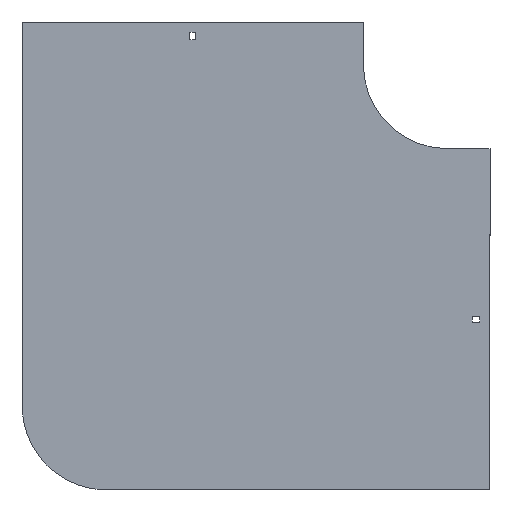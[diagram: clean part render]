
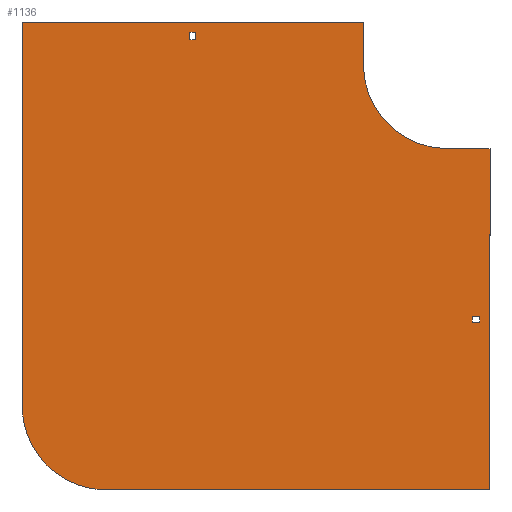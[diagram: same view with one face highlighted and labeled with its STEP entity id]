
A CAD part, front view. The second image highlights one B-rep face of the part: STEP entity #1136.
In plain terms, the highlighted planar face has unit normal (0, -1, 0).
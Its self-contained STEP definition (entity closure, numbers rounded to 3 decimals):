
#1 = DIRECTION ( 'NONE',  ( -1., 0., 0. ) ) ;
#22 = LINE ( 'NONE', #574, #1624 ) ;
#30 = ORIENTED_EDGE ( 'NONE', *, *, #1088, .T. ) ;
#36 = VECTOR ( 'NONE', #155, 1000. ) ;
#81 = VERTEX_POINT ( 'NONE', #191 ) ;
#86 = CARTESIAN_POINT ( 'NONE',  ( -305.25, 0., 29. ) ) ;
#100 = DIRECTION ( 'NONE',  ( 0., 0., 1. ) ) ;
#106 = CARTESIAN_POINT ( 'NONE',  ( -504., 0., 50. ) ) ;
#111 = CARTESIAN_POINT ( 'NONE',  ( 29., 0., -298.75 ) ) ;
#116 = LINE ( 'NONE', #710, #690 ) ;
#141 = LINE ( 'NONE', #1508, #1725 ) ;
#155 = DIRECTION ( 'NONE',  ( 1., 0., 0. ) ) ;
#177 = ORIENTED_EDGE ( 'NONE', *, *, #1758, .F. ) ;
#191 = CARTESIAN_POINT ( 'NONE',  ( -305.25, 0., 38. ) ) ;
#195 = EDGE_CURVE ( 'NONE', #1787, #1843, #1655, .T. ) ;
#201 = CARTESIAN_POINT ( 'NONE',  ( -404., 0., -504. ) ) ;
#203 = PLANE ( 'NONE',  #1205 ) ;
#204 = VERTEX_POINT ( 'NONE', #311 ) ;
#217 = VERTEX_POINT ( 'NONE', #1460 ) ;
#219 = VECTOR ( 'NONE', #843, 1000. ) ;
#236 = EDGE_CURVE ( 'NONE', #1873, #264, #984, .T. ) ;
#264 = VERTEX_POINT ( 'NONE', #201 ) ;
#275 = EDGE_CURVE ( 'NONE', #264, #1896, #1300, .T. ) ;
#311 = CARTESIAN_POINT ( 'NONE',  ( -100., 0., 50. ) ) ;
#317 = CARTESIAN_POINT ( 'NONE',  ( -298.75, 0., 38. ) ) ;
#327 = CARTESIAN_POINT ( 'NONE',  ( -504., 0., 50. ) ) ;
#337 = ORIENTED_EDGE ( 'NONE', *, *, #993, .F. ) ;
#346 = DIRECTION ( 'NONE',  ( -1., 0., 0. ) ) ;
#397 = VERTEX_POINT ( 'NONE', #327 ) ;
#401 = LINE ( 'NONE', #697, #515 ) ;
#409 = EDGE_LOOP ( 'NONE', ( #1859, #621, #337, #1186 ) ) ;
#430 = CARTESIAN_POINT ( 'NONE',  ( 0., 0., -100. ) ) ;
#433 = CARTESIAN_POINT ( 'NONE',  ( 50., 0., -504. ) ) ;
#442 = CARTESIAN_POINT ( 'NONE',  ( -504., 0., -404. ) ) ;
#445 = VERTEX_POINT ( 'NONE', #1568 ) ;
#456 = DIRECTION ( 'NONE',  ( 0., 0., -1. ) ) ;
#464 = VECTOR ( 'NONE', #1504, 1000. ) ;
#484 = VERTEX_POINT ( 'NONE', #637 ) ;
#491 = FACE_BOUND ( 'NONE', #409, .T. ) ;
#515 = VECTOR ( 'NONE', #1445, 1000. ) ;
#548 = CARTESIAN_POINT ( 'NONE',  ( 38., 0., -305.25 ) ) ;
#549 = AXIS2_PLACEMENT_3D ( 'NONE', #965, #1411, #977 ) ;
#574 = CARTESIAN_POINT ( 'NONE',  ( 29., 0., -305.25 ) ) ;
#582 = DIRECTION ( 'NONE',  ( 0., -1., 0. ) ) ;
#583 = VECTOR ( 'NONE', #1660, 1000. ) ;
#584 = CARTESIAN_POINT ( 'NONE',  ( 38., 0., -298.75 ) ) ;
#610 = EDGE_CURVE ( 'NONE', #217, #1286, #1490, .T. ) ;
#620 = ORIENTED_EDGE ( 'NONE', *, *, #821, .F. ) ;
#621 = ORIENTED_EDGE ( 'NONE', *, *, #677, .F. ) ;
#625 = ORIENTED_EDGE ( 'NONE', *, *, #1005, .F. ) ;
#637 = CARTESIAN_POINT ( 'NONE',  ( 29., 0., -298.75 ) ) ;
#643 = DIRECTION ( 'NONE',  ( 0., 0., 1. ) ) ;
#670 = ORIENTED_EDGE ( 'NONE', *, *, #1332, .T. ) ;
#677 = EDGE_CURVE ( 'NONE', #445, #1787, #401, .T. ) ;
#690 = VECTOR ( 'NONE', #1287, 1000. ) ;
#695 = DIRECTION ( 'NONE',  ( -1., 0., 0. ) ) ;
#697 = CARTESIAN_POINT ( 'NONE',  ( 29., 0., -305.25 ) ) ;
#710 = CARTESIAN_POINT ( 'NONE',  ( 50., 0., -100. ) ) ;
#742 = LINE ( 'NONE', #1337, #464 ) ;
#752 = CARTESIAN_POINT ( 'NONE',  ( 38., 0., -305.25 ) ) ;
#809 = ORIENTED_EDGE ( 'NONE', *, *, #1085, .T. ) ;
#821 = EDGE_CURVE ( 'NONE', #1704, #1873, #116, .T. ) ;
#843 = DIRECTION ( 'NONE',  ( 1., 0., 0. ) ) ;
#872 = LINE ( 'NONE', #1471, #36 ) ;
#876 = DIRECTION ( 'NONE',  ( 0., 0., 1. ) ) ;
#879 = ORIENTED_EDGE ( 'NONE', *, *, #236, .F. ) ;
#908 = CARTESIAN_POINT ( 'NONE',  ( -100., 0., 50. ) ) ;
#931 = EDGE_LOOP ( 'NONE', ( #177, #1637, #1227, #879, #620, #1104, #625, #1201 ) ) ;
#956 = FACE_OUTER_BOUND ( 'NONE', #931, .T. ) ;
#965 = CARTESIAN_POINT ( 'NONE',  ( -404., 0., -404. ) ) ;
#977 = DIRECTION ( 'NONE',  ( 0., 0., 1. ) ) ;
#984 = LINE ( 'NONE', #1578, #1143 ) ;
#993 = EDGE_CURVE ( 'NONE', #484, #445, #22, .T. ) ;
#998 = AXIS2_PLACEMENT_3D ( 'NONE', #1493, #582, #456 ) ;
#1005 = EDGE_CURVE ( 'NONE', #1446, #1368, #1534, .T. ) ;
#1008 = EDGE_CURVE ( 'NONE', #1368, #1704, #1932, .T. ) ;
#1027 = EDGE_CURVE ( 'NONE', #204, #1446, #1195, .T. ) ;
#1037 = DIRECTION ( 'NONE',  ( 0., 0., -1. ) ) ;
#1057 = VERTEX_POINT ( 'NONE', #317 ) ;
#1085 = EDGE_CURVE ( 'NONE', #81, #1057, #872, .T. ) ;
#1088 = EDGE_CURVE ( 'NONE', #1057, #217, #742, .T. ) ;
#1095 = DIRECTION ( 'NONE',  ( 0., -1., 0. ) ) ;
#1101 = FACE_BOUND ( 'NONE', #1188, .T. ) ;
#1104 = ORIENTED_EDGE ( 'NONE', *, *, #1008, .F. ) ;
#1116 = CARTESIAN_POINT ( 'NONE',  ( 50., 0., -100. ) ) ;
#1136 = ADVANCED_FACE ( 'NONE', ( #1101, #956, #491 ), #203, .T. ) ;
#1143 = VECTOR ( 'NONE', #346, 1000. ) ;
#1186 = ORIENTED_EDGE ( 'NONE', *, *, #1257, .F. ) ;
#1188 = EDGE_LOOP ( 'NONE', ( #670, #809, #30, #1249 ) ) ;
#1195 = LINE ( 'NONE', #908, #583 ) ;
#1201 = ORIENTED_EDGE ( 'NONE', *, *, #1027, .F. ) ;
#1205 = AXIS2_PLACEMENT_3D ( 'NONE', #1709, #1095, #1698 ) ;
#1227 = ORIENTED_EDGE ( 'NONE', *, *, #275, .F. ) ;
#1233 = VECTOR ( 'NONE', #643, 1000. ) ;
#1249 = ORIENTED_EDGE ( 'NONE', *, *, #610, .T. ) ;
#1257 = EDGE_CURVE ( 'NONE', #1843, #484, #1738, .T. ) ;
#1271 = VECTOR ( 'NONE', #695, 1000. ) ;
#1275 = LINE ( 'NONE', #1294, #1847 ) ;
#1286 = VERTEX_POINT ( 'NONE', #86 ) ;
#1287 = DIRECTION ( 'NONE',  ( 0., 0., -1. ) ) ;
#1294 = CARTESIAN_POINT ( 'NONE',  ( -305.25, 0., 29. ) ) ;
#1300 = CIRCLE ( 'NONE', #549, 100. ) ;
#1332 = EDGE_CURVE ( 'NONE', #1286, #81, #1275, .T. ) ;
#1337 = CARTESIAN_POINT ( 'NONE',  ( -298.75, 0., 29. ) ) ;
#1368 = VERTEX_POINT ( 'NONE', #1794 ) ;
#1411 = DIRECTION ( 'NONE',  ( 0., 1., 0. ) ) ;
#1445 = DIRECTION ( 'NONE',  ( 1., 0., 0. ) ) ;
#1446 = VERTEX_POINT ( 'NONE', #1500 ) ;
#1452 = EDGE_CURVE ( 'NONE', #1896, #397, #141, .T. ) ;
#1460 = CARTESIAN_POINT ( 'NONE',  ( -298.75, 0., 29. ) ) ;
#1471 = CARTESIAN_POINT ( 'NONE',  ( -305.25, 0., 38. ) ) ;
#1482 = DIRECTION ( 'NONE',  ( 1., 0., 0. ) ) ;
#1490 = LINE ( 'NONE', #1795, #1850 ) ;
#1493 = CARTESIAN_POINT ( 'NONE',  ( 0., 0., 0. ) ) ;
#1500 = CARTESIAN_POINT ( 'NONE',  ( -100., 0., 0. ) ) ;
#1504 = DIRECTION ( 'NONE',  ( 0., 0., -1. ) ) ;
#1508 = CARTESIAN_POINT ( 'NONE',  ( -504., 0., -404. ) ) ;
#1534 = CIRCLE ( 'NONE', #998, 100. ) ;
#1568 = CARTESIAN_POINT ( 'NONE',  ( 29., 0., -305.25 ) ) ;
#1578 = CARTESIAN_POINT ( 'NONE',  ( 50., 0., -504. ) ) ;
#1590 = LINE ( 'NONE', #106, #219 ) ;
#1624 = VECTOR ( 'NONE', #1037, 1000. ) ;
#1637 = ORIENTED_EDGE ( 'NONE', *, *, #1452, .F. ) ;
#1655 = LINE ( 'NONE', #752, #1233 ) ;
#1660 = DIRECTION ( 'NONE',  ( 0., 0., -1. ) ) ;
#1698 = DIRECTION ( 'NONE',  ( 0., 0., -1. ) ) ;
#1704 = VERTEX_POINT ( 'NONE', #1116 ) ;
#1709 = CARTESIAN_POINT ( 'NONE',  ( 0., 0., 0. ) ) ;
#1725 = VECTOR ( 'NONE', #876, 1000. ) ;
#1738 = LINE ( 'NONE', #111, #1271 ) ;
#1758 = EDGE_CURVE ( 'NONE', #397, #204, #1590, .T. ) ;
#1787 = VERTEX_POINT ( 'NONE', #548 ) ;
#1792 = VECTOR ( 'NONE', #1482, 1000. ) ;
#1794 = CARTESIAN_POINT ( 'NONE',  ( 0., 0., -100. ) ) ;
#1795 = CARTESIAN_POINT ( 'NONE',  ( -305.25, 0., 29. ) ) ;
#1843 = VERTEX_POINT ( 'NONE', #584 ) ;
#1847 = VECTOR ( 'NONE', #100, 1000. ) ;
#1850 = VECTOR ( 'NONE', #1, 1000. ) ;
#1859 = ORIENTED_EDGE ( 'NONE', *, *, #195, .F. ) ;
#1873 = VERTEX_POINT ( 'NONE', #433 ) ;
#1896 = VERTEX_POINT ( 'NONE', #442 ) ;
#1932 = LINE ( 'NONE', #430, #1792 ) ;
